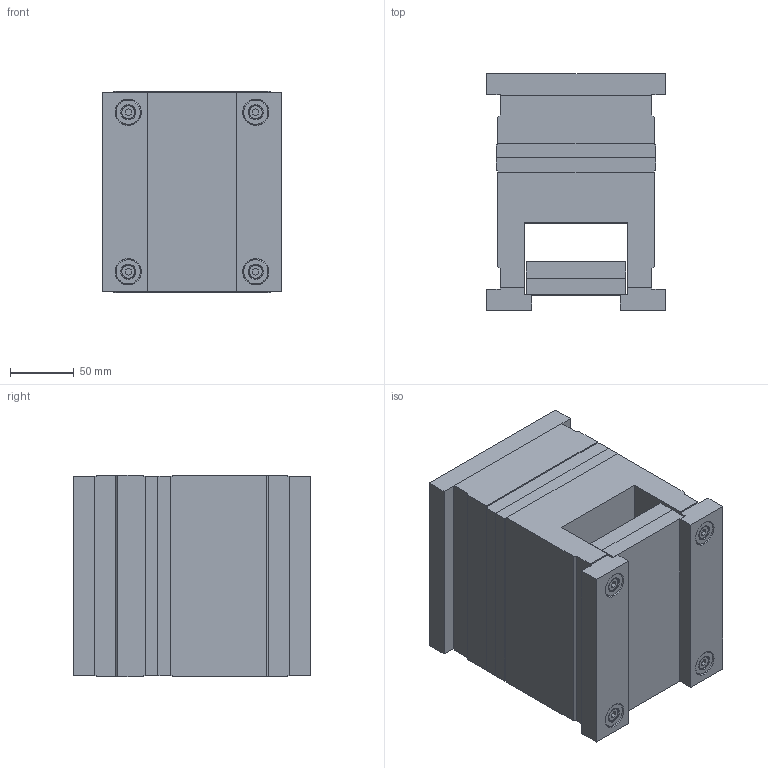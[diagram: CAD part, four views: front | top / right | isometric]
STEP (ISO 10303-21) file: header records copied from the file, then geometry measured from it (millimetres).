
FILE_DESCRIPTION (( 'STEP AP214' ), '1' );
FILE_NAME ('1252.STEP', '2002-07-10T07:47:38', ( 'Simcha Kilim' ), ( 'K. Plastics Engineering' ), 'SwSTEP 2.0', 'SolidWorks 2002025', '' );
FILE_SCHEMA (( 'AUTOMOTIVE_DESIGN' ));
Length unit declared in the file: millimetre
Products named in the file (12): 1252; ALMO (ejector half)_1252; ALMO (hot half)_1252; ALMO (ejector plate)_1252; ALMO (ejector return plate)_1252; ALMO (guide bush)_Ø10; ALMO (guide bush)_Ø11; ALMO (key plate)_Ø10; ALMO (screw)_M6x80; ALMO (guide pin)_Ø10; ALMO (guide pin)_Ø11; ALMO (screw)_M6x50
Assembly tree (28 placements, depth 2):
  1252
    ALMO (hot half)_1252
    ALMO (ejector plate)_1252
    ALMO (key plate)_Ø10  x8
    ALMO (guide bush)_Ø11
    ALMO (guide pin)_Ø10  x3
    ALMO (guide pin)_Ø11
    ALMO (ejector half)_1252
    ALMO (screw)_M6x50  x4
    ALMO (guide bush)_Ø10  x3
    ALMO (screw)_M6x80  x4
    ALMO (ejector return plate)_1252
Bounding box: 140 x 185.5 x 158 mm (x, y, z)
Volume: 3073255.5 mm3; surface area: 350452.9 mm2
Topology: 28 solids, 28 shells, 706 faces, 1496 edges, 924 vertices
Faces by surface type: cylinder 260, plane 254, cone 192
Entity records: 10477 total; most frequent: DIRECTION 1914, CARTESIAN_POINT 1683, ORIENTED_EDGE 1584, EDGE_CURVE 792, AXIS2_PLACEMENT_3D 729, VERTEX_POINT 498, LINE 456, VECTOR 456
